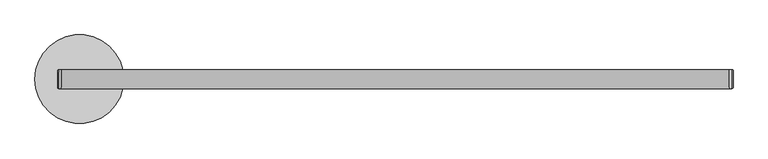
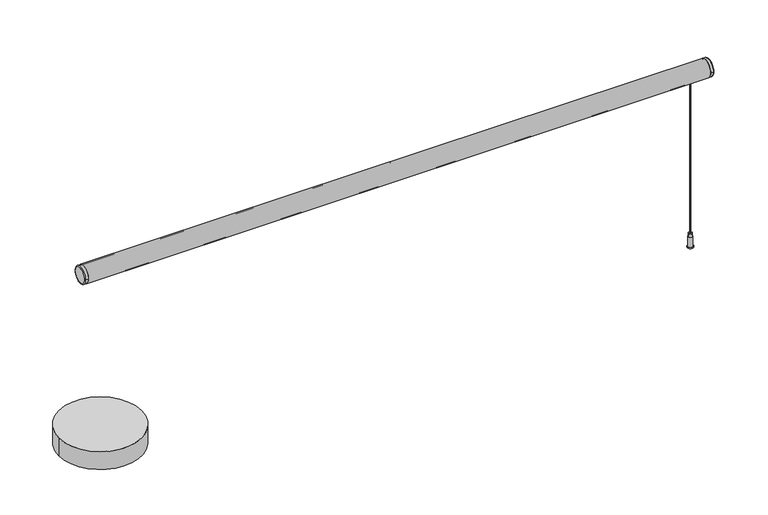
"""IFC4 building model written with IfcOpenShell, lengths in millimetres: light fixture geometry, ARTEMIDE-AoL-StandAlone-Linear_Suspended : StandALone_Suspended_Linear-1800mm 5226lm 3000K."""

from ifc_helpers import new_model, si_unit, point, frame, frame_2d, origin, origin_with_axes, place, context, project, spatial, polyline, circle_curve, ellipse_curve, trimmed, segment, composite_curve, outline, extrude, source, transform, mapped, element, save
from ifc_brep_helpers import plane_surface, cylinder_surface, revolved_surface, advanced_brep


def light_fixture_b43fc585(model_context):
    return source(origin(), model_context, "Body", "SolidModel", [
        advanced_brep(
        [(-9.9967986, 22.0, 525.0), (-9.9967986, -22.0, 525.0), (0.0032014, 25.0, 525.0), (0.0032014, -25.0, 525.0), (-6.9967986, -25.0, 525.0), (-6.9967986, 25.0, 525.0)],
        [
            (0, 1, circle_curve(frame((-9.9967986, 0.0, 525.0), z_axis=(-1.0, 0.0, 0.0), x_axis=(0.0, -1.0, 0.0)), 22.0)),
            (1, 0, circle_curve(frame((-9.9967986, 0.0, 525.0), z_axis=(-1.0, 0.0, 0.0), x_axis=(0.0, 1.0, 0.0)), 22.0)),
            (2, 3, circle_curve(frame((0.0032014, 0.0, 525.0), z_axis=(1.0, 0.0, 0.0), x_axis=(0.0, -1.0, 0.0)), 25.0)),
            (3, 2, circle_curve(frame((0.0032014, 0.0, 525.0), z_axis=(1.0, 0.0, 0.0), x_axis=(0.0, -1.0, 0.0)), 25.0)),
            (3, 4),
            (4, 5, circle_curve(frame((-6.9967986, 0.0, 525.0), z_axis=(1.0, 0.0, 0.0), x_axis=(0.0, -1.0, 0.0)), 25.0)),
            (5, 2),
            (5, 4, circle_curve(frame((-6.9967986, 0.0, 525.0), z_axis=(1.0, 0.0, 0.0), x_axis=(0.0, -1.0, 0.0)), 25.0)),
            (0, 5, circle_curve(frame((-6.9967986, 22.0, 525.0), z_axis=(0.0, 0.0, -1.0), x_axis=(0.0, 1.0, 0.0)), 3.0)),
            (4, 1, circle_curve(frame((-6.9967986, -22.0, 525.0), z_axis=(0.0, 0.0, -1.0), x_axis=(0.0, -1.0, 0.0)), 3.0)),
        ],
        [
            plane_surface(frame((-9.9967986, -25.0, 525.0), z_axis=(-1.0, 0.0, 0.0), x_axis=(0.0, 0.0, 1.0))),
            plane_surface(frame((0.0032014, -25.0, 525.0), z_axis=(1.0, 0.0, 0.0), x_axis=(0.0, 0.0, -1.0))),
            cylinder_surface(frame((0.0032014, 0.0, 525.0), z_axis=(-1.0, 0.0, 0.0), x_axis=(0.0, -1.0, 0.0)), 25.0),
            revolved_surface(trimmed(ellipse_curve(frame((-6.9967986, -22.0, 525.0), z_axis=(0.0, 0.0, 1.0), x_axis=(0.0, -1.0, 0.0)), 3.0, 3.0), [point((-9.9967986, -22.0, 525.0))], [point((-6.9967986, -25.0, 525.0))], True, "CARTESIAN"), (-9.9967986, 0.0, 525.0), (1.0, 0.0, 0.0)),
            revolved_surface(trimmed(ellipse_curve(frame((-6.9967986, 22.0, 525.0), z_axis=(0.0, 0.0, -1.0), x_axis=(0.0, 1.0, 0.0)), 3.0, 3.0), [point((-9.9967986, 22.0, 525.0))], [point((-6.9967986, 25.0, 525.0))], True, "CARTESIAN"), (-9.9967986, 0.0, 525.0), (1.0, 0.0, 0.0)),
        ],
        [
            (0, [[1, 2]]),
            (1, [[3, 4]]),
            (2, [[-4, 5, 6, 7]]),
            (2, [[-3, -7, 8, -5]]),
            (3, [[9, -6, 10, -1]]),
            (4, [[-9, -2, -10, -8]]),
        ],
    ),
        advanced_brep(
        [(1735.0, 0.0, 41.0209548), (1737.0, 0.0, 41.0209548), (1741.4902255, 0.0, 41.0209548), (1730.5097745, 0.0, 41.0209548), (1735.0, 0.0, 0.0), (1737.0, 0.0, 0.0), (1727.4476301, 0.0, 0.0), (1744.5523699, 0.0, 0.0), (1727.4476301, 0.0, 2.0209548), (1744.5523699, 0.0, 2.0209548), (1729.4476301, 0.0, 2.0209548), (1742.5523699, 0.0, 2.0209548), (1729.4476301, 0.0, 30.9721976), (1742.5523699, 0.0, 30.9721976), (1730.5097745, 0.0, 30.9721976), (1741.4902255, 0.0, 30.9721976)],
        [
            (0, 1, circle_curve(frame((1736.0, 0.0, 41.0209548), z_axis=(0.0, 0.0, -1.0), x_axis=(1.0, 0.0, 0.0)), 1.0)),
            (1, 2),
            (2, 3, circle_curve(frame((1736.0, 0.0, 41.0209548), z_axis=(0.0, 0.0, 1.0), x_axis=(1.0, 0.0, 0.0)), 5.4902255)),
            (3, 0),
            (1, 0, circle_curve(frame((1736.0, 0.0, 41.0209548), z_axis=(0.0, 0.0, -1.0), x_axis=(1.0, 0.0, 0.0)), 1.0)),
            (3, 2, circle_curve(frame((1736.0, 0.0, 41.0209548), z_axis=(0.0, 0.0, 1.0), x_axis=(1.0, 0.0, 0.0)), 5.4902255)),
            (4, 5, circle_curve(frame((1736.0, 0.0, 0.0), z_axis=(0.0, 0.0, -1.0), x_axis=(1.0, 0.0, 0.0)), 1.0)),
            (5, 1),
            (0, 4),
            (5, 4, circle_curve(frame((1736.0, 0.0, 0.0), z_axis=(0.0, 0.0, -1.0), x_axis=(1.0, 0.0, 0.0)), 1.0)),
            (6, 7, circle_curve(frame((1736.0, 0.0, 0.0), z_axis=(0.0, 0.0, -1.0), x_axis=(1.0, 0.0, 0.0)), 8.5523699)),
            (7, 5),
            (4, 6),
            (7, 6, circle_curve(frame((1736.0, 0.0, 0.0), z_axis=(0.0, 0.0, -1.0), x_axis=(1.0, 0.0, 0.0)), 8.5523699)),
            (8, 9, circle_curve(frame((1736.0, 0.0, 2.0209548), z_axis=(0.0, 0.0, -1.0), x_axis=(1.0, 0.0, 0.0)), 8.5523699)),
            (9, 7),
            (6, 8),
            (9, 8, circle_curve(frame((1736.0, 0.0, 2.0209548), z_axis=(0.0, 0.0, -1.0), x_axis=(1.0, 0.0, 0.0)), 8.5523699)),
            (10, 11, circle_curve(frame((1736.0, 0.0, 2.0209548), z_axis=(0.0, 0.0, -1.0), x_axis=(1.0, 0.0, 0.0)), 6.5523699)),
            (11, 9),
            (8, 10),
            (11, 10, circle_curve(frame((1736.0, 0.0, 2.0209548), z_axis=(0.0, 0.0, -1.0), x_axis=(1.0, 0.0, 0.0)), 6.5523699)),
            (12, 13, circle_curve(frame((1736.0, 0.0, 30.9721976), z_axis=(0.0, 0.0, -1.0), x_axis=(1.0, 0.0, 0.0)), 6.5523699)),
            (13, 11),
            (10, 12),
            (13, 12, circle_curve(frame((1736.0, 0.0, 30.9721976), z_axis=(0.0, 0.0, -1.0), x_axis=(1.0, 0.0, 0.0)), 6.5523699)),
            (14, 15, circle_curve(frame((1736.0, 0.0, 30.9721976), z_axis=(0.0, 0.0, -1.0), x_axis=(1.0, 0.0, 0.0)), 5.4902255)),
            (15, 13),
            (12, 14),
            (15, 14, circle_curve(frame((1736.0, 0.0, 30.9721976), z_axis=(0.0, 0.0, -1.0), x_axis=(1.0, 0.0, 0.0)), 5.4902255)),
            (2, 15),
            (14, 3),
        ],
        [
            plane_surface(frame((1736.0, 0.0, 41.0209548), z_axis=(0.0, 0.0, 1.0), x_axis=(1.0, 0.0, 0.0))),
            revolved_surface(polyline([(1737.0, 0.0, 41.02095480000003), (1737.0, 0.0, 0.0)]), (1736.0, 0.0, 391.16642), (0.0, 0.0, 1.0)),
            plane_surface(frame((1736.0, 0.0, 0.0), z_axis=(0.0, 0.0, -1.0), x_axis=(1.0, 0.0, 0.0))),
            cylinder_surface(frame((1736.0, 0.0, 391.16642), z_axis=(0.0, 0.0, 1.0), x_axis=(1.0, 0.0, 0.0)), 8.5523699),
            plane_surface(frame((1736.0, 0.0, 2.0209548), z_axis=(0.0, 0.0, 1.0), x_axis=(1.0, 0.0, 0.0))),
            cylinder_surface(frame((1736.0, 0.0, 391.16642), z_axis=(0.0, 0.0, 1.0), x_axis=(1.0, 0.0, 0.0)), 6.5523699),
            plane_surface(frame((1736.0, 0.0, 30.9721976), z_axis=(0.0, 0.0, 1.0), x_axis=(1.0, 0.0, 0.0))),
            cylinder_surface(frame((1736.0, 0.0, 391.16642), z_axis=(0.0, 0.0, 1.0), x_axis=(1.0, 0.0, 0.0)), 5.4902255),
        ],
        [
            (0, [[1, 2, 3, 4]]),
            (0, [[5, -4, 6, -2]]),
            (1, [[7, 8, -1, 9]]),
            (1, [[10, -9, -5, -8]]),
            (2, [[11, 12, -7, 13]]),
            (2, [[14, -13, -10, -12]]),
            (3, [[15, 16, -11, 17]]),
            (3, [[18, -17, -14, -16]]),
            (4, [[19, 20, -15, 21]]),
            (4, [[22, -21, -18, -20]]),
            (5, [[23, 24, -19, 25]]),
            (5, [[26, -25, -22, -24]]),
            (6, [[27, 28, -23, 29]]),
            (6, [[30, -29, -26, -28]]),
            (7, [[-3, 31, -27, 32]]),
            (7, [[-6, -32, -30, -31]]),
        ],
    ),
        extrude(outline(composite_curve([segment(trimmed(circle_curve(frame_2d((1736.0, 0.0)), 0.8), [point((1735.2, 0.0))], [point((1736.8, 0.0))], False, "CARTESIAN"), True, "CONTINUOUS"), segment(trimmed(circle_curve(frame_2d((1736.0, 0.0)), 0.8), [point((1736.8, 0.0))], [point((1735.2, 0.0))], False, "CARTESIAN"), True, "CONTINUOUS")], self_intersect=False)), origin_with_axes(), (0.0, 0.0, 1.0), 500.0),
        advanced_brep(
        [(1790.0032014, -22.0, 525.0), (1790.0032014, 22.0, 525.0), (1780.0032014, 25.0, 525.0), (1780.0032014, -25.0, 525.0), (1787.0032014, -25.0, 525.0), (1787.0032014, 25.0, 525.0)],
        [
            (0, 1, circle_curve(frame((1790.0032014, 0.0, 525.0), z_axis=(1.0, 0.0, 0.0), x_axis=(0.0, 1.0, 0.0)), 22.0)),
            (1, 0, circle_curve(frame((1790.0032014, 0.0, 525.0), z_axis=(1.0, 0.0, 0.0), x_axis=(0.0, -1.0, 0.0)), 22.0)),
            (2, 3, circle_curve(frame((1780.0032014, 0.0, 525.0), z_axis=(-1.0, 0.0, 0.0), x_axis=(0.0, 0.0, 1.0)), 25.0)),
            (3, 2, circle_curve(frame((1780.0032014, 0.0, 525.0), z_axis=(-1.0, 0.0, 0.0), x_axis=(0.0, 0.0, 1.0)), 25.0)),
            (3, 4),
            (4, 5, circle_curve(frame((1787.0032014, 0.0, 525.0), z_axis=(-1.0, 0.0, 0.0), x_axis=(0.0, 0.0, 1.0)), 25.0)),
            (5, 2),
            (5, 4, circle_curve(frame((1787.0032014, 0.0, 525.0), z_axis=(-1.0, 0.0, 0.0), x_axis=(0.0, 0.0, 1.0)), 25.0)),
            (0, 4, circle_curve(frame((1787.0032014, -22.0, 525.0), z_axis=(0.0, 0.0, -1.0), x_axis=(0.0, -1.0, 0.0)), 3.0)),
            (5, 1, circle_curve(frame((1787.0032014, 22.0, 525.0), z_axis=(0.0, 0.0, -1.0), x_axis=(0.0, 1.0, 0.0)), 3.0)),
        ],
        [
            plane_surface(frame((1790.0032014, 0.0, 550.0), z_axis=(1.0, 0.0, 0.0), x_axis=(0.0, -1.0, 0.0))),
            plane_surface(frame((1780.0032014, 0.0, 550.0), z_axis=(-1.0, 0.0, 0.0), x_axis=(0.0, 1.0, 0.0))),
            cylinder_surface(frame((1780.0032014, 0.0, 525.0), z_axis=(1.0, 0.0, 0.0), x_axis=(0.0, 0.0, 1.0)), 25.0),
            revolved_surface(trimmed(ellipse_curve(frame((1787.0032014, 22.0, 525.0), z_axis=(0.0, 0.0, 1.0), x_axis=(0.0, 1.0, 0.0)), 3.0, 3.0), [point((1790.0032014, 22.0, 525.0))], [point((1787.0032014, 25.0, 525.0))], True, "CARTESIAN"), (1790.0032014, 0.0, 525.0), (-1.0, 0.0, 0.0)),
            revolved_surface(trimmed(ellipse_curve(frame((1787.0032014, -22.0, 525.0), z_axis=(0.0, 0.0, -1.0), x_axis=(0.0, -1.0, 0.0)), 3.0, 3.0), [point((1790.0032014, -22.0, 525.0))], [point((1787.0032014, -25.0, 525.0))], True, "CARTESIAN"), (1790.0032014, 0.0, 525.0), (-1.0, 0.0, 0.0)),
        ],
        [
            (0, [[1, 2]]),
            (1, [[3, 4]]),
            (2, [[-4, 5, 6, 7]]),
            (2, [[-3, -7, 8, -5]]),
            (3, [[9, -8, 10, -1]]),
            (4, [[-9, -2, -10, -6]]),
        ],
    ),
        extrude(outline(composite_curve([segment(trimmed(circle_curve(frame_2d((0.0, 525.0)), 25.0), [point((-11.75, 502.9333396))], [point((11.75, 502.9333396))], False, "CARTESIAN"), True, "CONTINUOUS"), segment(polyline([(11.75, 502.9333396), (11.75, 507.259212), (13.667754, 507.259212), (13.667754, 505.8288843), (15.617754, 507.2440748), (15.617754, 509.244074), (12.667754, 509.244074), (12.667754, 510.744074), (17.2779794, 510.744074)]), True, "CONTINUOUS"), segment(trimmed(circle_curve(frame_2d((0.0, 525.0)), 22.4), [point((17.2779794, 510.744074))], [point((-17.2779794, 510.744074))], True, "CARTESIAN"), True, "CONTINUOUS"), segment(polyline([(-17.2779794, 510.744074), (-12.667754, 510.744074), (-12.667754, 509.244074), (-15.617754, 509.244074), (-15.617754, 507.2440748), (-13.667754, 505.8288843), (-13.667754, 507.259212), (-11.75, 507.259212), (-11.75, 502.9333396)]), True, "CONTINUOUS")], self_intersect=False)), frame((0.0032014, 0.0, 0.0), z_axis=(1.0, 0.0, 0.0), x_axis=(0.0, 1.0, 0.0)), (0.0, 0.0, 1.0), 1780.0),
        extrude(outline(composite_curve([segment(trimmed(circle_curve(frame_2d((0.0, 525.0)), 25.0), [point((11.75, 502.9333396))], [point((-11.75, 502.9333396))], False, "CARTESIAN"), True, "CONTINUOUS"), segment(polyline([(-11.75, 502.9333396), (-11.75, 507.259212), (-15.304087, 507.259212), (-15.304087, 508.785971), (-9.5062575, 508.785971), (-9.5062575, 514.4273482), (9.5062575, 514.4273482), (9.5062575, 508.785971), (15.304087, 508.785971), (15.304087, 507.259212), (11.75, 507.259212), (11.75, 502.9333396)]), True, "CONTINUOUS")], self_intersect=False)), frame((0.0032014, 0.0, 0.0), z_axis=(1.0, 0.0, 0.0), x_axis=(0.0, 1.0, 0.0)), (0.0, 0.0, 1.0), 1780.0),
        extrude(outline(composite_curve([segment(trimmed(circle_curve(frame_2d((48.0, 0.0)), 118.5), [point((166.5, 0.0))], [point((-70.5, 0.0))], False, "CARTESIAN"), True, "CONTINUOUS"), segment(trimmed(circle_curve(frame_2d((48.0, 0.0)), 118.5), [point((-70.5, 0.0))], [point((166.5, 0.0))], False, "CARTESIAN"), True, "CONTINUOUS")], self_intersect=False)), origin_with_axes(), (0.0, 0.0, 1.0), 54.0),
    ])


if __name__ == "__main__":
    model = new_model("IFC4")
    model_context = context("Model", 3, world=origin())
    ifc_project = project(units=[si_unit("LENGTHUNIT", "METRE", prefix="MILLI")], contexts=[model_context])
    site = spatial("IfcSite", under=ifc_project)
    building = spatial("IfcBuilding", under=site)
    placement = place(None, origin())
    light_fixture_shape = light_fixture_b43fc585(model_context)
    element("IfcLightFixture", 1, ObjectType="ARTEMIDE-AoL-StandAlone-Linear_Suspended : StandALone_Suspended_Linear-1800mm 5226lm 3000K", at=placement, inside=building, context=model_context, shape_type="MappedRepresentation", body=[
        mapped(light_fixture_shape, transform((0.0, 0.0, 0.0), x_axis=(1.0, 0.0, 0.0), y_axis=(0.0, 1.0, 0.0), z_axis=(0.0, 0.0, 1.0))),
    ])
    save(model, "model.ifc")
